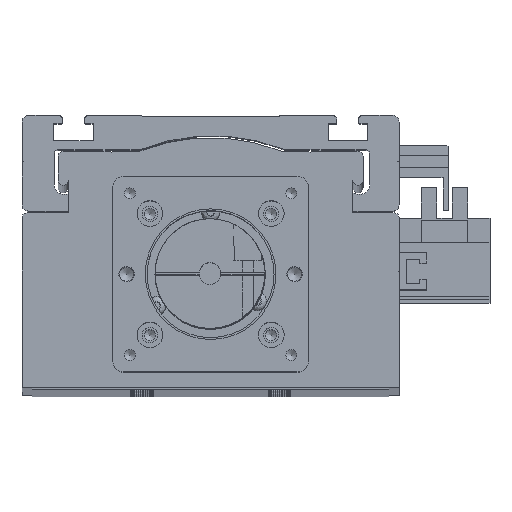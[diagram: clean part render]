
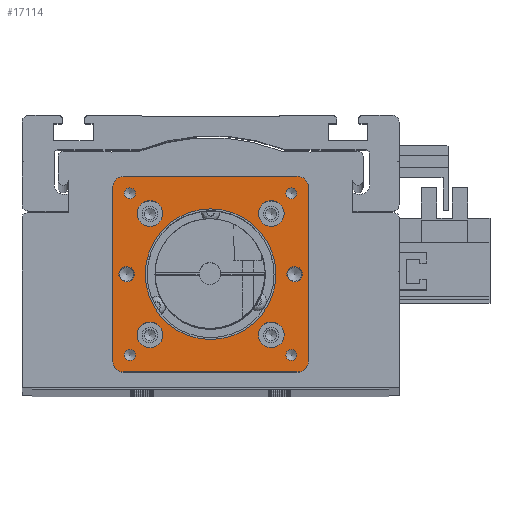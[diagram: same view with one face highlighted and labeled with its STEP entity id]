
A CAD part, top view. The second image highlights one B-rep face of the part: STEP entity #17114.
In plain terms, the highlighted planar face has unit normal (0, 0, 1).
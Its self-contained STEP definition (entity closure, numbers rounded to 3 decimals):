
#16878=CARTESIAN_POINT('',(54.0,57.0,0.0));
#16879=VERTEX_POINT('',#16878);
#16886=CARTESIAN_POINT('',(57.0,54.0,0.0));
#16887=VERTEX_POINT('',#16886);
#16888=CARTESIAN_POINT('',(54.0,54.0,0.0));
#16889=DIRECTION('',(0.0,0.0,-1.));
#16890=DIRECTION('',(0.707,0.707,0.0));
#16891=AXIS2_PLACEMENT_3D('',#16888,#16889,#16890);
#16892=CIRCLE('',#16891,3.);
#16893=EDGE_CURVE('',#16879,#16887,#16892,.T.);
#16910=CARTESIAN_POINT('',(57.0,3.,0.0));
#16911=VERTEX_POINT('',#16910);
#16912=CARTESIAN_POINT('',(57.0,3.,0.0));
#16913=DIRECTION('',(0.0,1.0,0.0));
#16914=VECTOR('',#16913,51.0);
#16915=LINE('',#16912,#16914);
#16916=EDGE_CURVE('',#16911,#16887,#16915,.T.);
#16935=CARTESIAN_POINT('',(28.5,28.5,0.0));
#16936=DIRECTION('',(0.0,0.0,1.0));
#16937=DIRECTION('',(1.0,0.0,0.0));
#16938=AXIS2_PLACEMENT_3D('',#16935,#16936,#16937);
#16939=PLANE('',#16938);
#16940=ORIENTED_EDGE('',*,*,#16893,.F.);
#16941=CARTESIAN_POINT('',(3.,57.0,0.0));
#16942=VERTEX_POINT('',#16941);
#16943=CARTESIAN_POINT('',(54.0,57.0,0.0));
#16944=DIRECTION('',(-1.0,0.0,0.0));
#16945=VECTOR('',#16944,51.0);
#16946=LINE('',#16943,#16945);
#16947=EDGE_CURVE('',#16879,#16942,#16946,.T.);
#16948=ORIENTED_EDGE('',*,*,#16947,.T.);
#16949=CARTESIAN_POINT('',(0.0,54.0,0.0));
#16950=VERTEX_POINT('',#16949);
#16951=CARTESIAN_POINT('',(3.,54.0,0.0));
#16952=DIRECTION('',(0.0,0.0,-1.0));
#16953=DIRECTION('',(-0.707,0.707,0.0));
#16954=AXIS2_PLACEMENT_3D('',#16951,#16952,#16953);
#16955=CIRCLE('',#16954,3.0);
#16956=EDGE_CURVE('',#16950,#16942,#16955,.T.);
#16957=ORIENTED_EDGE('',*,*,#16956,.F.);
#16958=CARTESIAN_POINT('',(0.0,3.,0.0));
#16959=VERTEX_POINT('',#16958);
#16960=CARTESIAN_POINT('',(0.0,54.0,0.0));
#16961=DIRECTION('',(0.0,-1.0,0.0));
#16962=VECTOR('',#16961,51.0);
#16963=LINE('',#16960,#16962);
#16964=EDGE_CURVE('',#16950,#16959,#16963,.T.);
#16965=ORIENTED_EDGE('',*,*,#16964,.T.);
#16966=CARTESIAN_POINT('',(3.,0.0,0.0));
#16967=VERTEX_POINT('',#16966);
#16968=CARTESIAN_POINT('',(3.,3.,0.0));
#16969=DIRECTION('',(0.0,0.0,-1.));
#16970=DIRECTION('',(-0.707,-0.707,0.0));
#16971=AXIS2_PLACEMENT_3D('',#16968,#16969,#16970);
#16972=CIRCLE('',#16971,3.);
#16973=EDGE_CURVE('',#16967,#16959,#16972,.T.);
#16974=ORIENTED_EDGE('',*,*,#16973,.F.);
#16975=CARTESIAN_POINT('',(54.0,0.0,0.0));
#16976=VERTEX_POINT('',#16975);
#16977=CARTESIAN_POINT('',(3.,0.0,0.0));
#16978=DIRECTION('',(1.0,0.0,0.0));
#16979=VECTOR('',#16978,51.0);
#16980=LINE('',#16977,#16979);
#16981=EDGE_CURVE('',#16967,#16976,#16980,.T.);
#16982=ORIENTED_EDGE('',*,*,#16981,.T.);
#16983=CARTESIAN_POINT('',(54.0,3.,0.0));
#16984=DIRECTION('',(0.0,0.0,-1.));
#16985=DIRECTION('',(0.707,-0.707,0.0));
#16986=AXIS2_PLACEMENT_3D('',#16983,#16984,#16985);
#16987=CIRCLE('',#16986,3.);
#16988=EDGE_CURVE('',#16911,#16976,#16987,.T.);
#16989=ORIENTED_EDGE('',*,*,#16988,.F.);
#16990=ORIENTED_EDGE('',*,*,#16916,.T.);
#16991=EDGE_LOOP('',(#16940,#16948,#16957,#16965,#16974,#16982,#16989,#16990));
#16992=FACE_OUTER_BOUND('',#16991,.T.);
#16993=CARTESIAN_POINT('',(6.25,28.5,0.0));
#16994=VERTEX_POINT('',#16993);
#16995=CARTESIAN_POINT('',(4.,28.5,0.0));
#16996=DIRECTION('',(0.0,0.0,-1.0));
#16997=DIRECTION('',(1.0,0.0,0.0));
#16998=AXIS2_PLACEMENT_3D('',#16995,#16996,#16997);
#16999=CIRCLE('',#16998,2.25);
#17000=EDGE_CURVE('',#16994,#16994,#16999,.T.);
#17001=ORIENTED_EDGE('',*,*,#17000,.T.);
#17002=EDGE_LOOP('',(#17001));
#17003=FACE_BOUND('',#17002,.T.);
#17004=CARTESIAN_POINT('',(55.25,28.5,0.0));
#17005=VERTEX_POINT('',#17004);
#17006=CARTESIAN_POINT('',(53.,28.5,0.0));
#17007=DIRECTION('',(0.0,0.0,-1.0));
#17008=DIRECTION('',(1.0,0.0,0.0));
#17009=AXIS2_PLACEMENT_3D('',#17006,#17007,#17008);
#17010=CIRCLE('',#17009,2.25);
#17011=EDGE_CURVE('',#17005,#17005,#17010,.T.);
#17012=ORIENTED_EDGE('',*,*,#17011,.T.);
#17013=EDGE_LOOP('',(#17012));
#17014=FACE_BOUND('',#17013,.T.);
#17015=CARTESIAN_POINT('',(6.546,4.925,0.0));
#17016=VERTEX_POINT('',#17015);
#17017=CARTESIAN_POINT('',(4.925,4.925,0.0));
#17018=DIRECTION('',(0.0,0.0,-1.0));
#17019=DIRECTION('',(1.0,0.0,0.0));
#17020=AXIS2_PLACEMENT_3D('',#17017,#17018,#17019);
#17021=CIRCLE('',#17020,1.621);
#17022=EDGE_CURVE('',#17016,#17016,#17021,.T.);
#17023=ORIENTED_EDGE('',*,*,#17022,.T.);
#17024=EDGE_LOOP('',(#17023));
#17025=FACE_BOUND('',#17024,.T.);
#17026=CARTESIAN_POINT('',(53.696,52.075,0.0));
#17027=VERTEX_POINT('',#17026);
#17028=CARTESIAN_POINT('',(52.075,52.075,0.0));
#17029=DIRECTION('',(0.0,0.0,-1.0));
#17030=DIRECTION('',(1.0,0.0,0.0));
#17031=AXIS2_PLACEMENT_3D('',#17028,#17029,#17030);
#17032=CIRCLE('',#17031,1.621);
#17033=EDGE_CURVE('',#17027,#17027,#17032,.T.);
#17034=ORIENTED_EDGE('',*,*,#17033,.T.);
#17035=EDGE_LOOP('',(#17034));
#17036=FACE_BOUND('',#17035,.T.);
#17037=CARTESIAN_POINT('',(6.546,52.075,0.0));
#17038=VERTEX_POINT('',#17037);
#17039=CARTESIAN_POINT('',(4.925,52.075,0.0));
#17040=DIRECTION('',(0.0,0.0,-1.0));
#17041=DIRECTION('',(1.0,0.0,0.0));
#17042=AXIS2_PLACEMENT_3D('',#17039,#17040,#17041);
#17043=CIRCLE('',#17042,1.621);
#17044=EDGE_CURVE('',#17038,#17038,#17043,.T.);
#17045=ORIENTED_EDGE('',*,*,#17044,.T.);
#17046=EDGE_LOOP('',(#17045));
#17047=FACE_BOUND('',#17046,.T.);
#17048=CARTESIAN_POINT('',(53.696,4.925,0.0));
#17049=VERTEX_POINT('',#17048);
#17050=CARTESIAN_POINT('',(52.075,4.925,0.0));
#17051=DIRECTION('',(0.0,0.0,-1.0));
#17052=DIRECTION('',(1.0,0.0,0.0));
#17053=AXIS2_PLACEMENT_3D('',#17050,#17051,#17052);
#17054=CIRCLE('',#17053,1.621);
#17055=EDGE_CURVE('',#17049,#17049,#17054,.T.);
#17056=ORIENTED_EDGE('',*,*,#17055,.T.);
#17057=EDGE_LOOP('',(#17056));
#17058=FACE_BOUND('',#17057,.T.);
#17059=CARTESIAN_POINT('',(49.95,10.8,0.0));
#17060=VERTEX_POINT('',#17059);
#17061=CARTESIAN_POINT('',(46.2,10.8,0.0));
#17062=DIRECTION('',(0.0,0.0,-1.0));
#17063=DIRECTION('',(1.0,0.0,0.0));
#17064=AXIS2_PLACEMENT_3D('',#17061,#17062,#17063);
#17065=CIRCLE('',#17064,3.75);
#17066=EDGE_CURVE('',#17060,#17060,#17065,.T.);
#17067=ORIENTED_EDGE('',*,*,#17066,.T.);
#17068=EDGE_LOOP('',(#17067));
#17069=FACE_BOUND('',#17068,.T.);
#17070=CARTESIAN_POINT('',(14.55,46.2,0.0));
#17071=VERTEX_POINT('',#17070);
#17072=CARTESIAN_POINT('',(10.8,46.2,0.0));
#17073=DIRECTION('',(0.0,0.0,-1.0));
#17074=DIRECTION('',(1.0,0.0,0.0));
#17075=AXIS2_PLACEMENT_3D('',#17072,#17073,#17074);
#17076=CIRCLE('',#17075,3.75);
#17077=EDGE_CURVE('',#17071,#17071,#17076,.T.);
#17078=ORIENTED_EDGE('',*,*,#17077,.T.);
#17079=EDGE_LOOP('',(#17078));
#17080=FACE_BOUND('',#17079,.T.);
#17081=CARTESIAN_POINT('',(49.95,46.2,0.0));
#17082=VERTEX_POINT('',#17081);
#17083=CARTESIAN_POINT('',(46.2,46.2,0.0));
#17084=DIRECTION('',(0.0,0.0,-1.0));
#17085=DIRECTION('',(1.0,0.0,0.0));
#17086=AXIS2_PLACEMENT_3D('',#17083,#17084,#17085);
#17087=CIRCLE('',#17086,3.75);
#17088=EDGE_CURVE('',#17082,#17082,#17087,.T.);
#17089=ORIENTED_EDGE('',*,*,#17088,.T.);
#17090=EDGE_LOOP('',(#17089));
#17091=FACE_BOUND('',#17090,.T.);
#17092=CARTESIAN_POINT('',(14.55,10.8,0.0));
#17093=VERTEX_POINT('',#17092);
#17094=CARTESIAN_POINT('',(10.8,10.8,0.0));
#17095=DIRECTION('',(0.0,0.0,-1.0));
#17096=DIRECTION('',(1.0,0.0,0.0));
#17097=AXIS2_PLACEMENT_3D('',#17094,#17095,#17096);
#17098=CIRCLE('',#17097,3.75);
#17099=EDGE_CURVE('',#17093,#17093,#17098,.T.);
#17100=ORIENTED_EDGE('',*,*,#17099,.T.);
#17101=EDGE_LOOP('',(#17100));
#17102=FACE_BOUND('',#17101,.T.);
#17103=CARTESIAN_POINT('',(47.55,28.5,0.0));
#17104=VERTEX_POINT('',#17103);
#17105=CARTESIAN_POINT('',(28.5,28.5,0.0));
#17106=DIRECTION('',(0.0,0.0,-1.0));
#17107=DIRECTION('',(-1.0,0.0,0.0));
#17108=AXIS2_PLACEMENT_3D('',#17105,#17106,#17107);
#17109=CIRCLE('',#17108,19.05);
#17110=EDGE_CURVE('',#17104,#17104,#17109,.T.);
#17111=ORIENTED_EDGE('',*,*,#17110,.T.);
#17112=EDGE_LOOP('',(#17111));
#17113=FACE_BOUND('',#17112,.T.);
#17114=ADVANCED_FACE('',(#16992,#17003,#17014,#17025,#17036,#17047,#17058,#17069,#17080,#17091,#17102,#17113),#16939,.T.);
